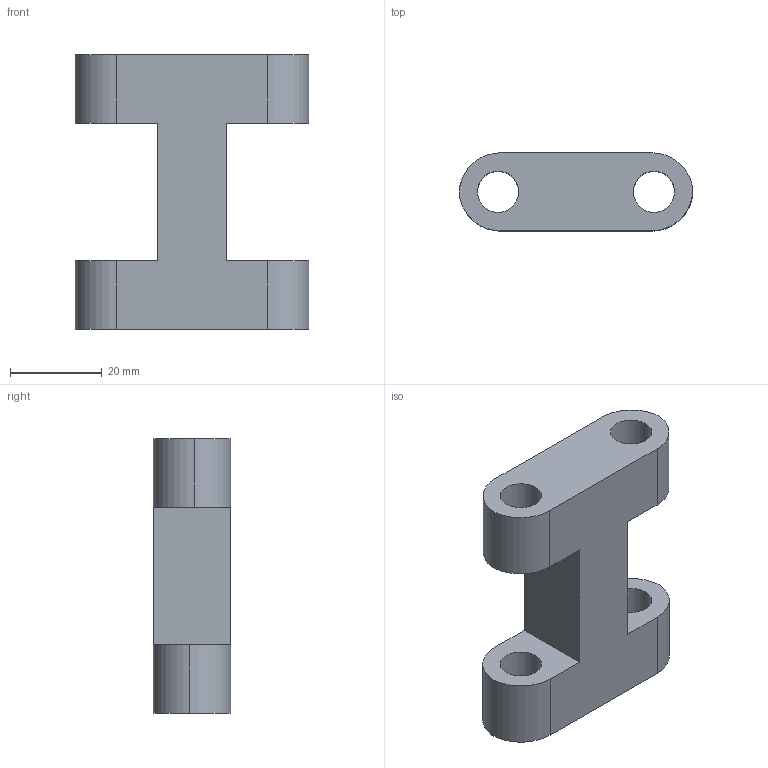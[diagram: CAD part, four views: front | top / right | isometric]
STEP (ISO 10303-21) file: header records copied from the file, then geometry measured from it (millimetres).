
FILE_DESCRIPTION(/* description */ (''),/* implementation_level */ '2;1');
FILE_NAME(/* name */ 'E:/3D Design/3D Prints/Tablet Wall Mount/STEP Files/Coupler.stp',/* time_stamp */ '2017-09-21T22:04:29-05:00',/* author */ (''),/* organization */ (''),/* preprocessor_version */ 'ST-DEVELOPER v16.13',/* originating_system */ 'Autodesk Translation Framework v6.1.1.50',/* authorisation */ '');
FILE_SCHEMA (('AUTOMOTIVE_DESIGN { 1 0 10303 214 3 1 1 }'));
Length unit declared in the file: millimetre
Products named in the file (1): Coupler
Bounding box: 51 x 17 x 60 mm (x, y, z)
Volume: 27784.9 mm3; surface area: 9410.8 mm2
Topology: 1 solids, 1 shells, 22 faces, 60 edges, 40 vertices
Faces by surface type: cylinder 12, plane 10
Full cylindrical faces by diameter (mm): 9 x4
Entity records: 726 total; most frequent: DIRECTION 126, CARTESIAN_POINT 119, ORIENTED_EDGE 112, EDGE_CURVE 56, AXIS2_PLACEMENT_3D 47, VERTEX_POINT 40, EDGE_LOOP 34, LINE 32
